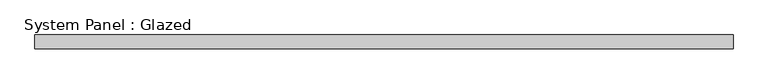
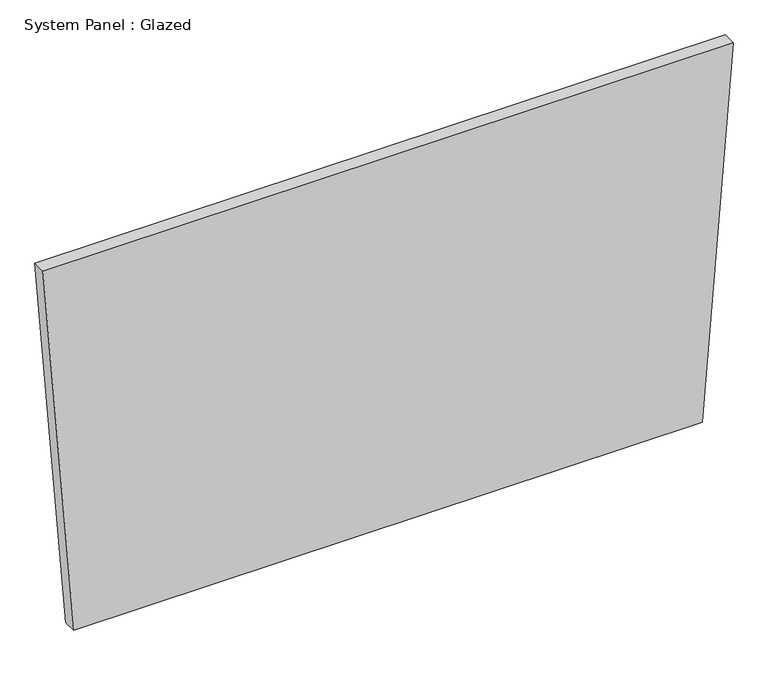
"""IFC4 building model written with IfcOpenShell, lengths in millimetres: plate geometry, System Panel : Glazed."""

from ifc_helpers import new_model, si_unit, frame, origin, place, context, project, spatial, polyline, outline, extrude, source, transform, mapped, element, save


def system_panel_glazed_3fde837d(model_context):
    return source(origin(), model_context, "Body", "SweptSolid", [
        extrude(outline(polyline([(0.0, -581.2682571), (0.0, 581.2687993), (722.6125644, 638.7696229), (722.6193773, -638.7696229), (0.0, -581.2682571)])), frame((0.0, 19.05, 0.0), z_axis=(0.0, 1.0, 0.0), x_axis=(0.0, 0.0, 1.0)), (0.0, 0.0, 1.0), 25.4),
    ])


if __name__ == "__main__":
    model = new_model("IFC4")
    model_context = context("Model", 3, world=origin())
    ifc_project = project(units=[si_unit("LENGTHUNIT", "METRE", prefix="MILLI")], contexts=[model_context])
    site = spatial("IfcSite", under=ifc_project)
    building = spatial("IfcBuilding", under=site)
    placement = place(None, origin())
    system_panel_glazed_shape = system_panel_glazed_3fde837d(model_context)
    element("IfcPlate", 1, ObjectType="System Panel : Glazed", at=placement, inside=building, context=model_context, shape_type="MappedRepresentation", body=[
        mapped(system_panel_glazed_shape, transform((0.0, 0.0, 0.0), x_axis=(1.0, 0.0, 0.0), y_axis=(0.0, 1.0, 0.0), z_axis=(0.0, 0.0, 1.0))),
    ])
    save(model, "model.ifc")
